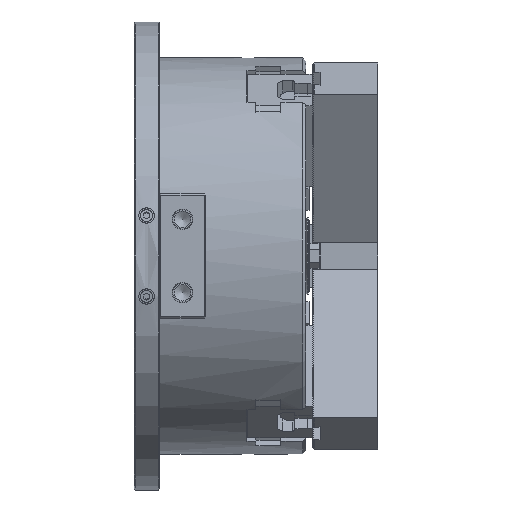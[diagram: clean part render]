
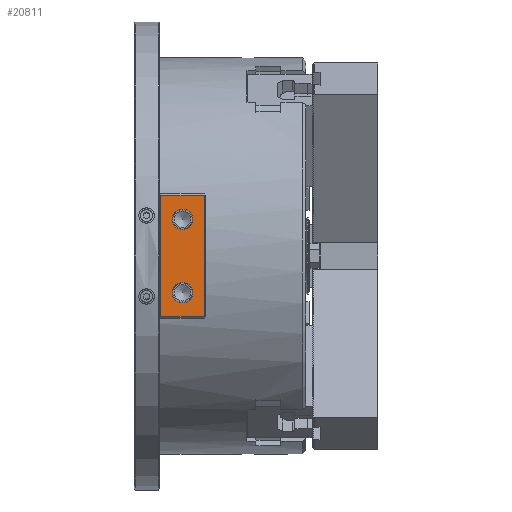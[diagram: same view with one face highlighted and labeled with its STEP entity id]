
A CAD part, front view. The second image highlights one B-rep face of the part: STEP entity #20811.
In plain terms, the highlighted planar face has unit normal (0, -1, 0).
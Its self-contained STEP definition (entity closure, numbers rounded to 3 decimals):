
#196 = CARTESIAN_POINT ( 'NONE',  ( -65., -147.5, 39. ) ) ;
#820 = CARTESIAN_POINT ( 'NONE',  ( -93., -147.5, 39. ) ) ;
#860 = EDGE_LOOP ( 'NONE', ( #89096 ) ) ;
#1120 = CARTESIAN_POINT ( 'NONE',  ( -64., -147.5, 39. ) ) ;
#3939 = VERTEX_POINT ( 'NONE', #196 ) ;
#6946 = ORIENTED_EDGE ( 'NONE', *, *, #47160, .F. ) ;
#8870 = AXIS2_PLACEMENT_3D ( 'NONE', #27020, #75618, #76503 ) ;
#11357 = EDGE_CURVE ( 'NONE', #45485, #23607, #13379, .T. ) ;
#11435 = ORIENTED_EDGE ( 'NONE', *, *, #43585, .T. ) ;
#12465 = CARTESIAN_POINT ( 'NONE',  ( -79., -147.5, -30.029 ) ) ;
#13379 = LINE ( 'NONE', #61489, #45133 ) ;
#14538 = EDGE_CURVE ( 'NONE', #56988, #56988, #87029, .T. ) ;
#15002 = VERTEX_POINT ( 'NONE', #12465 ) ;
#15260 = FACE_BOUND ( 'NONE', #45137, .T. ) ;
#15346 = FACE_BOUND ( 'NONE', #860, .T. ) ;
#17210 = CARTESIAN_POINT ( 'NONE',  ( -64., -147.5, -40. ) ) ;
#20811 = ADVANCED_FACE ( 'NONE', ( #15346, #61603, #15260 ), #87956, .T. ) ;
#21595 = LINE ( 'NONE', #1120, #40275 ) ;
#23607 = VERTEX_POINT ( 'NONE', #30046 ) ;
#27020 = CARTESIAN_POINT ( 'NONE',  ( -79., -147.5, 23.5 ) ) ;
#27972 = DIRECTION ( 'NONE',  ( 1., 0., 0. ) ) ;
#28739 = DIRECTION ( 'NONE',  ( 0., 0., 1. ) ) ;
#30046 = CARTESIAN_POINT ( 'NONE',  ( -93., -147.5, -39. ) ) ;
#36575 = ORIENTED_EDGE ( 'NONE', *, *, #14538, .T. ) ;
#36721 = ORIENTED_EDGE ( 'NONE', *, *, #11357, .T. ) ;
#40275 = VECTOR ( 'NONE', #27972, 1000. ) ;
#43585 = EDGE_CURVE ( 'NONE', #56592, #3939, #89934, .T. ) ;
#45133 = VECTOR ( 'NONE', #89677, 1000. ) ;
#45137 = EDGE_LOOP ( 'NONE', ( #36575 ) ) ;
#45257 = DIRECTION ( 'NONE',  ( 0., -1., 0. ) ) ;
#45485 = VERTEX_POINT ( 'NONE', #820 ) ;
#47160 = EDGE_CURVE ( 'NONE', #45485, #3939, #21595, .T. ) ;
#48208 = CARTESIAN_POINT ( 'NONE',  ( -65., -147.5, -40. ) ) ;
#48919 = VECTOR ( 'NONE', #28739, 1000. ) ;
#50557 = DIRECTION ( 'NONE',  ( 0., 0., -1. ) ) ;
#52587 = DIRECTION ( 'NONE',  ( 1., 0., 0. ) ) ;
#56592 = VERTEX_POINT ( 'NONE', #79451 ) ;
#56988 = VERTEX_POINT ( 'NONE', #65279 ) ;
#57774 = CIRCLE ( 'NONE', #81876, 6.529 ) ;
#58206 = LINE ( 'NONE', #80516, #90335 ) ;
#61489 = CARTESIAN_POINT ( 'NONE',  ( -93., -147.5, -40. ) ) ;
#61603 = FACE_OUTER_BOUND ( 'NONE', #85623, .T. ) ;
#65279 = CARTESIAN_POINT ( 'NONE',  ( -79., -147.5, 30.029 ) ) ;
#66069 = EDGE_CURVE ( 'NONE', #15002, #15002, #57774, .T. ) ;
#69800 = ORIENTED_EDGE ( 'NONE', *, *, #89588, .T. ) ;
#74348 = DIRECTION ( 'NONE',  ( 1., 0., 0. ) ) ;
#75618 = DIRECTION ( 'NONE',  ( 0., 1., 0. ) ) ;
#76503 = DIRECTION ( 'NONE',  ( 0., 0., 1. ) ) ;
#78176 = DIRECTION ( 'NONE',  ( 0., -1., 0. ) ) ;
#79128 = AXIS2_PLACEMENT_3D ( 'NONE', #17210, #45257, #74348 ) ;
#79451 = CARTESIAN_POINT ( 'NONE',  ( -65., -147.5, -39. ) ) ;
#80516 = CARTESIAN_POINT ( 'NONE',  ( -64., -147.5, -39. ) ) ;
#81876 = AXIS2_PLACEMENT_3D ( 'NONE', #86485, #78176, #50557 ) ;
#85623 = EDGE_LOOP ( 'NONE', ( #11435, #6946, #36721, #69800 ) ) ;
#86485 = CARTESIAN_POINT ( 'NONE',  ( -79., -147.5, -23.5 ) ) ;
#87029 = CIRCLE ( 'NONE', #8870, 6.529 ) ;
#87956 = PLANE ( 'NONE',  #79128 ) ;
#89096 = ORIENTED_EDGE ( 'NONE', *, *, #66069, .F. ) ;
#89588 = EDGE_CURVE ( 'NONE', #23607, #56592, #58206, .T. ) ;
#89677 = DIRECTION ( 'NONE',  ( 0., 0., -1. ) ) ;
#89934 = LINE ( 'NONE', #48208, #48919 ) ;
#90335 = VECTOR ( 'NONE', #52587, 1000. ) ;
